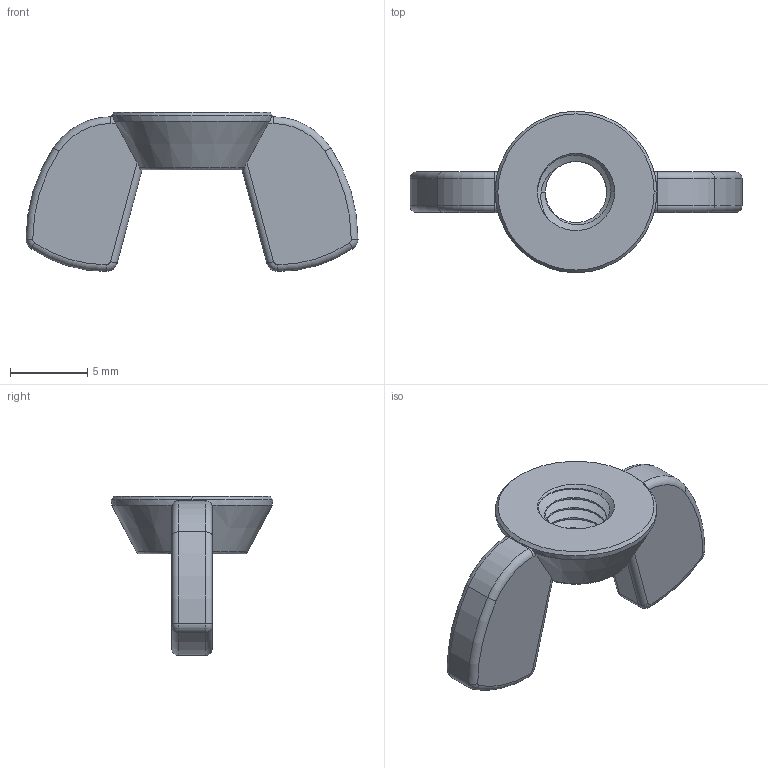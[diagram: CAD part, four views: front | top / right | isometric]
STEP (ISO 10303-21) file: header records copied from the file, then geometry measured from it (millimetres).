
FILE_DESCRIPTION (( 'STEP AP203' ), '1' );
FILE_NAME ('WING NUT M5 x 0.8mm Thread.STEP', '2017-05-02T00:59:24', ( '' ), ( '' ), 'SwSTEP 2.0', 'SolidWorks 2014', '' );
FILE_SCHEMA (( 'CONFIG_CONTROL_DESIGN' ));
Length unit declared in the file: millimetre
Products named in the file (1): WING NUT M5 x 0.8mm Thread
Bounding box: 21.5 x 10.46 x 10.3 mm (x, y, z)
Volume: 455.6 mm3; surface area: 590.4 mm2
Topology: 1 solids, 1 shells, 83 faces, 213 edges, 132 vertices
Faces by surface type: cylinder 37, torus 22, cone 12, plane 10, bspline 2
Entity records: 3226 total; most frequent: CARTESIAN_POINT 1250, ORIENTED_EDGE 426, DIRECTION 393, EDGE_CURVE 213, AXIS2_PLACEMENT_3D 169, VERTEX_POINT 132, CIRCLE 87, EDGE_LOOP 85
